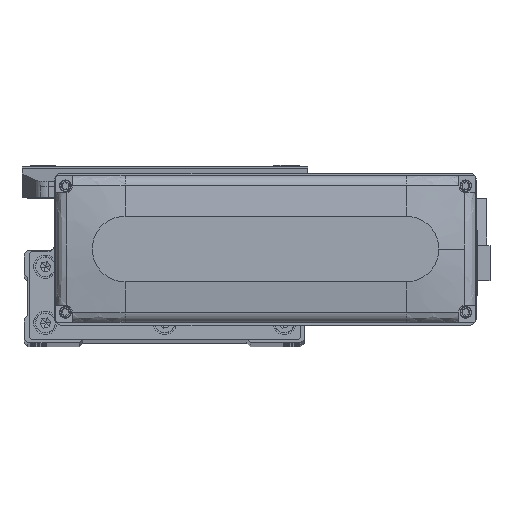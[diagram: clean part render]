
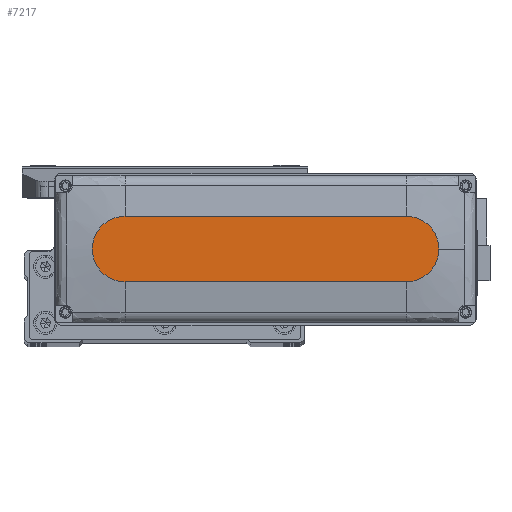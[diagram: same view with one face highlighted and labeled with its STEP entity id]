
A CAD part, top view. The second image highlights one B-rep face of the part: STEP entity #7217.
In plain terms, the highlighted planar face has unit normal (0, 0, 1).
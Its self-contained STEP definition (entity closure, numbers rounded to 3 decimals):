
#1405 = ORIENTED_EDGE ( 'NONE', *, *, #23012, .T. ) ;
#1544 = EDGE_CURVE ( 'NONE', #21309, #39447, #40681, .T. ) ;
#1831 = ORIENTED_EDGE ( 'NONE', *, *, #3636, .T. ) ;
#1899 = ORIENTED_EDGE ( 'NONE', *, *, #1544, .T. ) ;
#3636 = EDGE_CURVE ( 'NONE', #39447, #11182, #8997, .T. ) ;
#3945 = CARTESIAN_POINT ( 'NONE',  ( 60., -14., 28.5 ) ) ;
#4189 = ORIENTED_EDGE ( 'NONE', *, *, #20169, .T. ) ;
#4302 = CARTESIAN_POINT ( 'NONE',  ( 74., 0., 28.5 ) ) ;
#4656 = LINE ( 'NONE', #19068, #29259 ) ;
#6514 = CARTESIAN_POINT ( 'NONE',  ( 60., 0., 28.5 ) ) ;
#6669 = DIRECTION ( 'NONE',  ( 1., 0., 0. ) ) ;
#7217 = ADVANCED_FACE ( 'NONE', ( #42496 ), #10202, .T. ) ;
#7823 = AXIS2_PLACEMENT_3D ( 'NONE', #45612, #13346, #27738 ) ;
#8997 = LINE ( 'NONE', #23385, #37944 ) ;
#10202 = PLANE ( 'NONE',  #21593 ) ;
#10591 = CARTESIAN_POINT ( 'NONE',  ( -60., 14., 28.5 ) ) ;
#11182 = VERTEX_POINT ( 'NONE', #10591 ) ;
#11837 = DIRECTION ( 'NONE',  ( 0., 0., 1. ) ) ;
#13346 = DIRECTION ( 'NONE',  ( 0., 0., 1. ) ) ;
#14075 = CIRCLE ( 'NONE', #40395, 14. ) ;
#18477 = VERTEX_POINT ( 'NONE', #41618 ) ;
#19068 = CARTESIAN_POINT ( 'NONE',  ( -60., -14., 28.5 ) ) ;
#20169 = EDGE_CURVE ( 'NONE', #11182, #18477, #14075, .T. ) ;
#20925 = DIRECTION ( 'NONE',  ( 0., 0., 1. ) ) ;
#21301 = ORIENTED_EDGE ( 'NONE', *, *, #32549, .T. ) ;
#21309 = VERTEX_POINT ( 'NONE', #4302 ) ;
#21593 = AXIS2_PLACEMENT_3D ( 'NONE', #24611, #38964, #6669 ) ;
#23012 = EDGE_CURVE ( 'NONE', #18477, #31837, #4656, .T. ) ;
#23385 = CARTESIAN_POINT ( 'NONE',  ( -60., 14., 28.5 ) ) ;
#24611 = CARTESIAN_POINT ( 'NONE',  ( 0., 0., 28.5 ) ) ;
#26253 = DIRECTION ( 'NONE',  ( 1., 0., 0. ) ) ;
#27738 = DIRECTION ( 'NONE',  ( 1., 0., 0. ) ) ;
#28192 = CIRCLE ( 'NONE', #7823, 14. ) ;
#28401 = EDGE_LOOP ( 'NONE', ( #1831, #4189, #1405, #21301, #1899 ) ) ;
#29259 = VECTOR ( 'NONE', #33437, 1000. ) ;
#31837 = VERTEX_POINT ( 'NONE', #3945 ) ;
#32549 = EDGE_CURVE ( 'NONE', #31837, #21309, #28192, .T. ) ;
#33437 = DIRECTION ( 'NONE',  ( 1., 0., 0. ) ) ;
#35297 = DIRECTION ( 'NONE',  ( 1., 0., 0. ) ) ;
#37736 = DIRECTION ( 'NONE',  ( -1., 0., 0. ) ) ;
#37944 = VECTOR ( 'NONE', #37736, 1000. ) ;
#38964 = DIRECTION ( 'NONE',  ( 0., 0., 1. ) ) ;
#39447 = VERTEX_POINT ( 'NONE', #45177 ) ;
#40395 = AXIS2_PLACEMENT_3D ( 'NONE', #44136, #11837, #26253 ) ;
#40681 = CIRCLE ( 'NONE', #40746, 14. ) ;
#40746 = AXIS2_PLACEMENT_3D ( 'NONE', #6514, #20925, #35297 ) ;
#41618 = CARTESIAN_POINT ( 'NONE',  ( -60., -14., 28.5 ) ) ;
#42496 = FACE_OUTER_BOUND ( 'NONE', #28401, .T. ) ;
#44136 = CARTESIAN_POINT ( 'NONE',  ( -60., 0., 28.5 ) ) ;
#45177 = CARTESIAN_POINT ( 'NONE',  ( 60., 14., 28.5 ) ) ;
#45612 = CARTESIAN_POINT ( 'NONE',  ( 60., 0., 28.5 ) ) ;
